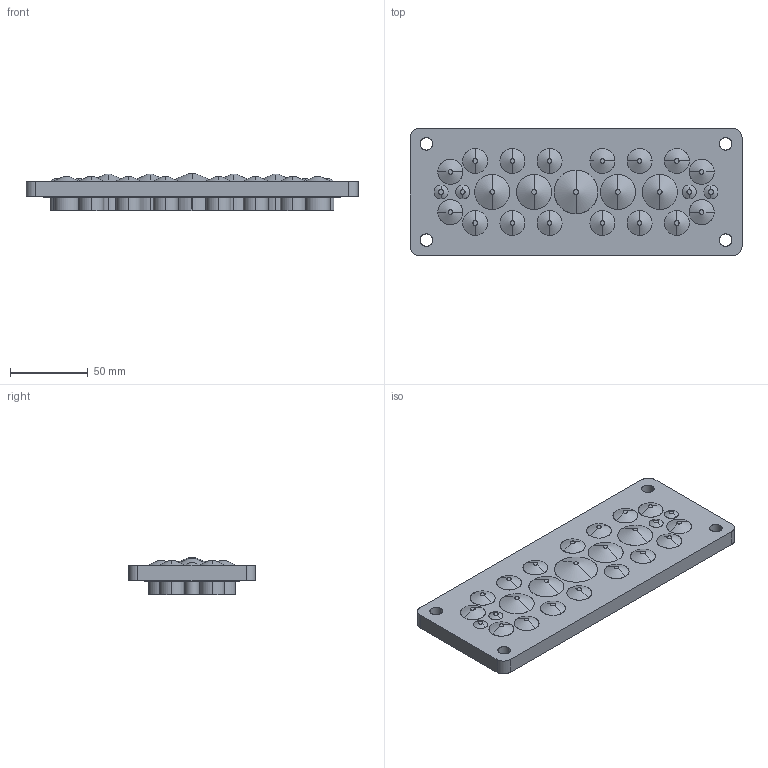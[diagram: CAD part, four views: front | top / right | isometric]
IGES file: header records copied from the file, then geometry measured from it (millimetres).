
Start section: SolidWorks IGES file using analytic representation for surfaces
Global section: file name: C:\Solidworks\omat tuotteet\Space charge models\Multigate\ip65\IGES\100238.IGS; native system: SolidWorks 2012; preprocessor: SolidWorks 2012; author: joni.lehtonen; date: 121211.065636; units: millimetre
Bounding box: 214 x 82 x 24 mm (x, y, z)
Surface area: 59001.5 mm2 (no closed solid volume)
Topology: 0 solids, 0 shells, 292 faces, 6724 edges, 6716 vertices
Faces by surface type: revolution 188, bspline 104
